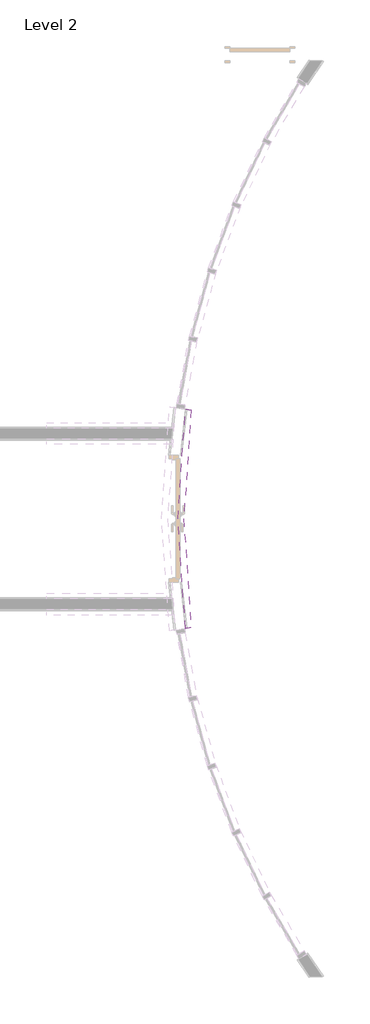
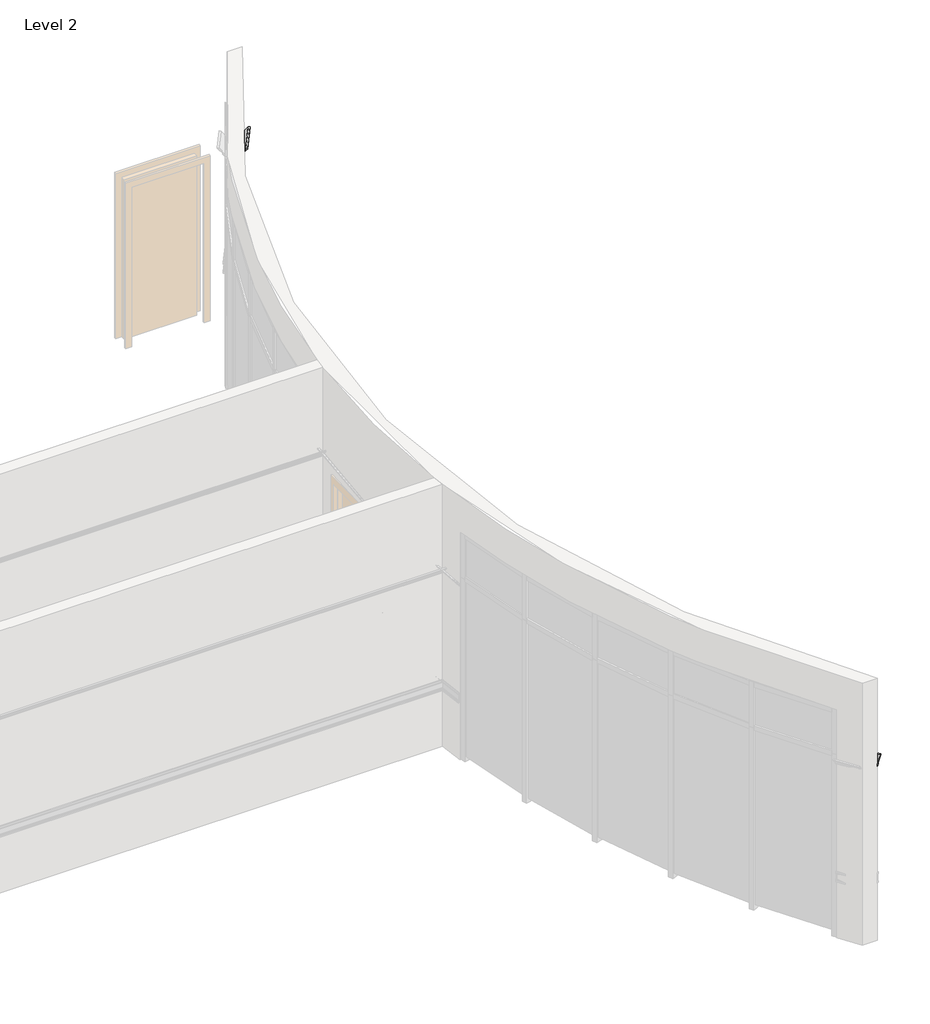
# One storey, part 12 of 14: 1 proxy.
"""IFC4 building model written with IfcOpenShell, lengths in millimetres."""

import ifcopenshell
import ifcopenshell.guid

model = None  # the IFC model being written
_history = None  # IfcOwnerHistory: only IFC2X3 demands one
_inside = {}  # id of a spatial element -> (the spatial element, [elements in it])
_under = {}  # id of a project, library or spatial element -> (it, [spatial elements below it])
_declared = {}  # id of a project -> (the project, [libraries it declares])
_typed = {}  # id of a type object -> (the type object, [elements of that type])
_made_of = {}  # id of a material, layer set ... -> (it, [elements and type objects made of it])


def new_model(schema):
    """Start an empty IFC model of exactly this schema.

    Asked for "IFC4X3", IfcOpenShell would pick the latest addendum, in which some entities
    have other attributes; the version numbers below select the first issue.
    IFC2X3 requires an IfcOwnerHistory on every rooted entity: one is made here for all.
    """
    global model, _history
    if schema == "IFC4X3":
        model = ifcopenshell.file(schema_version=(4, 3, 0, 0))
    else:
        model = ifcopenshell.file(schema=schema)
    _inside.clear()
    _under.clear()
    _declared.clear()
    _typed.clear()
    _made_of.clear()
    _history = None
    if model.schema == "IFC2X3":
        org = make("IfcOrganization", Name="unknown")
        user = make(
            "IfcPersonAndOrganization",
            ThePerson=make("IfcPerson", FamilyName="unknown"),
            TheOrganization=org,
        )
        app = make(
            "IfcApplication",
            ApplicationDeveloper=org,
            Version="unknown",
            ApplicationFullName="unknown",
            ApplicationIdentifier="unknown",
        )
        _history = make(
            "IfcOwnerHistory",
            OwningUser=user,
            OwningApplication=app,
            ChangeAction="ADDED",
            CreationDate=0,
        )
    return model


def make(cls, **values):
    """One entity of the class cls with the attributes given. An attribute that is None is left unset."""
    return model.create_entity(
        cls, **{name: value for name, value in values.items() if value is not None}
    )


def rooted(cls, **values):
    """An entity with a GlobalId (a new one), such as an element, a storey or a relation."""
    return make(cls, GlobalId=ifcopenshell.guid.new(), OwnerHistory=_history, **values)


def si_unit(unit_type, name, prefix=None):
    """IfcSIUnit, for example si_unit("LENGTHUNIT", "METRE", prefix="MILLI")."""
    return make("IfcSIUnit", UnitType=unit_type, Prefix=prefix, Name=name)


def assignment(units):
    """IfcUnitAssignment: the units of a project."""
    return None if units is None else make("IfcUnitAssignment", Units=units)


def point(xyz):
    """IfcCartesianPoint."""
    return None if xyz is None else make("IfcCartesianPoint", Coordinates=xyz)


def direction(xyz):
    """IfcDirection."""
    return None if xyz is None else make("IfcDirection", DirectionRatios=xyz)


def frame(location, z_axis=None, x_axis=None):
    """IfcAxis2Placement3D, a coordinate frame: its origin and axes. An axis left out is left unset."""
    return make(
        "IfcAxis2Placement3D",
        Location=point(location),
        Axis=direction(z_axis),
        RefDirection=direction(x_axis),
    )


def origin():
    """The frame at (0, 0, 0) with its axes left unset."""
    return frame((0.0, 0.0, 0.0))


def place(relative_to, where):
    """IfcLocalPlacement: puts the frame where relative to a parent placement (None: the world)."""
    return make(
        "IfcLocalPlacement", PlacementRelTo=relative_to, RelativePlacement=where
    )


def context(
    kind, dimensions, precision=None, world=None, true_north=None, identifier=None
):
    """IfcGeometricRepresentationContext, for example the 3D "Model" context."""
    return make(
        "IfcGeometricRepresentationContext",
        ContextIdentifier=identifier,
        ContextType=kind,
        CoordinateSpaceDimension=dimensions,
        Precision=precision,
        WorldCoordinateSystem=world,
        TrueNorth=true_north,
    )


def project(units=None, contexts=None):
    """IfcProject with its units and contexts."""
    return rooted(
        "IfcProject",
        Name="project",
        RepresentationContexts=contexts,
        UnitsInContext=assignment(units),
    )


def spatial(cls, under=None, at=None, **own):
    """A site, building, storey or space (cls), placed at a placement, below another one or the project."""
    s = rooted(cls, ObjectPlacement=at, **own)
    if under is not None:
        _under.setdefault(under.id(), (under, []))[1].append(s)
    return s


def polyline(points):
    """IfcPolyline through the points."""
    return make("IfcPolyline", Points=[point(p) for p in points])


def circle_curve(where, radius):
    """IfcCircle in the frame where."""
    return make("IfcCircle", Position=where, Radius=radius)


def ellipse_curve(where, semi_axis1, semi_axis2):
    """IfcEllipse in the frame where."""
    return make(
        "IfcEllipse", Position=where, SemiAxis1=semi_axis1, SemiAxis2=semi_axis2
    )


def trimmed(basis, trim1, trim2, sense, master):
    """IfcTrimmedCurve: the piece of a basis curve between two trims."""
    return make(
        "IfcTrimmedCurve",
        BasisCurve=basis,
        Trim1=trim1,
        Trim2=trim2,
        SenseAgreement=sense,
        MasterRepresentation=master,
    )


def shape(context_of_items, identifier, shape_type, items):
    """IfcShapeRepresentation: the items that make up one representation, for example the "Body"."""
    return make(
        "IfcShapeRepresentation",
        ContextOfItems=context_of_items,
        RepresentationIdentifier=identifier,
        RepresentationType=shape_type,
        Items=items,
    )


def made_of(thing, what):
    """Note that an element or type object is made of a material, layer set ...; save() writes the relation."""
    if what is not None:
        _made_of.setdefault(what.id(), (what, []))[1].append(thing)
    return thing


def element(
    cls,
    number,
    at=None,
    inside=None,
    cuts=None,
    type_object=None,
    material=None,
    context=None,
    identifier="Body",
    shape_type=None,
    held_by="IfcProductDefinitionShape",
    body=None,
    shapes=None,
    **own,
):
    """One element of the class cls, such as IfcWall. Its Tag is "e" and its number.

    at: its placement. inside: the storey or other place that contains it. cuts: it is an
    opening in that element (IfcRelVoidsElement). A single representation is given by context,
    identifier, shape_type and body (its items); several are given by shapes. held_by: the class
    of the entity that holds the representations. save() writes the other relations.
    """
    e = rooted(cls, Tag="e%d" % number, ObjectPlacement=at, **own)
    if body is not None:
        shapes = [shape(context, identifier, shape_type, body)]
    if shapes is not None:
        e.Representation = make(held_by, Representations=shapes)
    if inside is not None:
        _inside.setdefault(inside.id(), (inside, []))[1].append(e)
    if cuts is not None:
        rooted(
            "IfcRelVoidsElement", RelatingBuildingElement=cuts, RelatedOpeningElement=e
        )
    if type_object is not None:
        _typed.setdefault(type_object.id(), (type_object, []))[1].append(e)
    return made_of(e, material)


def aggregate(whole, parts):
    """IfcRelAggregates: a whole, such as a stair, and the parts it consists of."""
    return rooted("IfcRelAggregates", RelatingObject=whole, RelatedObjects=parts)


def save(model, path):
    """Write the relations noted so far, then the file.

    IfcRelAggregates (storeys below a building ...), IfcRelContainedInSpatialStructure (elements
    in a storey), IfcRelDefinesByType, IfcRelAssociatesMaterial and IfcRelDeclares: one each for
    every whole, place, type object, material and project.
    """
    for whole, parts in _under.values():
        aggregate(whole, parts)
    for where, things in _inside.values():
        rooted(
            "IfcRelContainedInSpatialStructure",
            RelatedElements=things,
            RelatingStructure=where,
        )
    for kind, things in _typed.values():
        rooted("IfcRelDefinesByType", RelatedObjects=things, RelatingType=kind)
    for what, things in _made_of.values():
        rooted("IfcRelAssociatesMaterial", RelatedObjects=things, RelatingMaterial=what)
    for by, libraries in _declared.values():
        rooted("IfcRelDeclares", RelatingContext=by, RelatedDefinitions=libraries)
    model.write(path)


def plane_surface(at):
    """IfcPlane: the flat surface through the origin of the frame at, square to its z axis."""
    return make("IfcPlane", Position=at)


def cylinder_surface(at, radius):
    """IfcCylindricalSurface: all points at the distance radius from the z axis of the frame at."""
    return make("IfcCylindricalSurface", Position=at, Radius=radius)


def revolved_surface(curve, axis_point, axis_direction):
    """IfcSurfaceOfRevolution: the curve turned about the line through axis_point along axis_direction."""
    return make(
        "IfcSurfaceOfRevolution",
        SweptCurve=make("IfcArbitraryOpenProfileDef", ProfileType="CURVE", Curve=curve),
        AxisPosition=make("IfcAxis1Placement", Location=point(axis_point), Axis=direction(axis_direction)),
    )


def advanced_brep(points, edges, surfaces, faces):
    """IfcAdvancedBrep: a solid bounded by faces that lie on surfaces and meet in shared edges.

    An edge is (start, end): straight between two places in points (the first is 0);
    or (start, end, curve); or (start, end, curve, False) where it runs against its curve.
    A face is (place in surfaces, loops), or (place, loops, False) where it looks against
    its surface's normal. A loop lists edges by number (the first is 1), with a minus sign
    where the edge is run from its end to its start. The first loop is the outer one.
    """
    corners = [point(p) for p in points]
    vertices = [make("IfcVertexPoint", VertexGeometry=c) for c in corners]
    made = []
    for start, end, *more in edges:
        made.append(
            make(
                "IfcEdgeCurve",
                EdgeStart=vertices[start],
                EdgeEnd=vertices[end],
                EdgeGeometry=more[0] if more else make("IfcPolyline", Points=[corners[start], corners[end]]),
                SameSense=more[1] if len(more) > 1 else True,
            )
        )
    hull = []
    for where, loops, *sense in faces:
        bounds = []
        for j, loop in enumerate(loops):
            ring = [make("IfcOrientedEdge", EdgeElement=made[abs(k) - 1], Orientation=k > 0) for k in loop]
            bounds.append(
                make(
                    "IfcFaceOuterBound" if j == 0 else "IfcFaceBound",
                    Bound=make("IfcEdgeLoop", EdgeList=ring),
                    Orientation=True,
                )
            )
        hull.append(make("IfcAdvancedFace", Bounds=bounds, FaceSurface=surfaces[where], SameSense=sense[0] if sense else True))
    return make("IfcAdvancedBrep", Outer=make("IfcClosedShell", CfsFaces=hull))


model = new_model("IFC4")

# Units and contexts
model_context = context("Model", 3, world=origin())
ifc_project = project(units=[si_unit("LENGTHUNIT", "METRE", prefix="MILLI")], contexts=[model_context])

# Site, building, storey
site = spatial("IfcSite", under=ifc_project)
building = spatial("IfcBuilding", under=site)
storey = spatial("IfcBuildingStorey", under=building, Name="Level 2", Elevation=3657.6)

# Proxy
placement = place(None, origin())
element("IfcBuildingElementProxy", 1, Name="Wall Sweeps", at=placement, inside=storey, context=model_context, shape_type="AdvancedBrep", body=[
    advanced_brep(
    [(12953.9587351, 4417.7700723, 6095.999973), (12970.903584, 4405.8685929, 6095.999973), (12970.903584, 4405.8685929, 6088.8481102), (12968.8452115, 4407.314323, 6088.8481102), (12966.0224244, 4409.2969516, 6085.3986257), (12958.8230837, 4414.353521, 6079.2202934), (12956.5575087, 4415.944783, 6079.2202934), (12956.5575087, 4415.944783, 6073.7698146), (12945.4863106, 4423.7208119, 6054.4442936), (12939.5598391, 4427.8833618, 6049.7194168), (12918.6957015, 4442.5376147, 6011.0554653), (12916.0546715, 4444.3925835, 6011.0554653), (12916.0546715, 4444.3925835, 6006.0207604), (12913.117846, 4446.4553087, 6006.0207604), (12907.2864516, 4450.5510796, 5995.6157037), (12907.2864516, 4450.5510796, 5991.3297498), (12904.0327026, 4452.8364011, 5984.875), (12898.1548084, 4456.9648319, 5984.875), (12898.1548084, 4456.9648319, 6009.4919306), (12720.2342373, 4072.4457045, 6095.999973), (12663.1071836, 4109.6855643, 6009.4919306), (12663.1071836, 4109.6855643, 5984.875), (12669.1244444, 4105.7630455, 5984.875), (12672.4553407, 4103.591708, 5991.3297498), (12672.4553407, 4103.591708, 5995.6157037), (12678.4249991, 4099.70022, 6006.0207604), (12681.4314575, 4097.7403764, 6006.0207604), (12681.4314575, 4097.7403764, 6011.0554653), (12684.1351072, 4095.9779271, 6011.0554653), (12705.4939394, 4082.0545779, 6049.7194168), (12711.5609292, 4078.0996417, 6054.4442936), (12722.8946285, 4070.7114544, 6073.7698146), (12722.8946285, 4070.7114544, 6079.2202934), (12725.213921, 4069.199559, 6079.2202934), (12732.5839601, 4064.3951939, 6085.3986257), (12735.4736763, 4062.511452, 6088.8481102), (12737.5808534, 4061.13783, 6088.8481102), (12737.5808534, 4061.13783, 6095.999973)],
    [
        (0, 1),
        (1, 2),
        (2, 3),
        (3, 4, circle_curve(frame((12971.9830654, 4405.1104023, 6081.5641253), z_axis=(-0.5747608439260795, -0.81832143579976, 0.0), x_axis=(0.81832143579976, -0.5747608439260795, 0.0)), 8.2316359)),
        (4, 5, circle_curve(frame((12959.5942099, 4413.8119085, 6087.2314026), z_axis=(0.5747608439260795, 0.81832143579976, 0.0), x_axis=(0.81832143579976, -0.5747608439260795, 0.0)), 8.0663405)),
        (5, 6),
        (6, 7),
        (7, 8, circle_curve(frame((12938.6875396, 4428.496035, 6074.6589994), z_axis=(0.5747608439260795, 0.81832143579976, 0.0), x_axis=(0.81832143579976, -0.5747608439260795, 0.0)), 21.8554426)),
        (8, 9),
        (9, 10, circle_curve(frame((12957.1145853, 4415.5535116, 6007.8346746), z_axis=(-0.5747608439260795, -0.81832143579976, 0.0), x_axis=(0.81832143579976, -0.5747608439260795, 0.0)), 47.0587499)),
        (10, 11),
        (11, 12),
        (12, 13),
        (13, 14, circle_curve(frame((12904.5356456, 4452.4831512, 6005.5606001), z_axis=(0.5747608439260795, 0.81832143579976, 0.0), x_axis=(0.81832143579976, -0.5747608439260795, 0.0)), 10.4976568)),
        (14, 15),
        (15, 16, circle_curve(frame((12909.9683311, 4448.6674197, 5984.8589154), z_axis=(-0.5747608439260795, -0.81832143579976, 0.0), x_axis=(0.81832143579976, -0.5747608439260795, 0.0)), 7.2534372)),
        (16, 17),
        (17, 18),
        (18, 0),
        (19, 20),
        (20, 21),
        (21, 22),
        (22, 23, circle_curve(frame((12675.2008084, 4101.8019985, 5984.8589154), z_axis=(0.5460937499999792, 0.8377240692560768, 0.0), x_axis=(0.8377240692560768, -0.5460937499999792, 0.0)), 7.2534372)),
        (23, 24),
        (24, 25, circle_curve(frame((12669.6393123, 4105.4274145, 6005.5606001), z_axis=(-0.5460937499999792, -0.8377240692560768, 0.0), x_axis=(0.8377240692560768, -0.5460937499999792, 0.0)), 10.4976568)),
        (25, 26),
        (26, 27),
        (27, 28),
        (28, 29, circle_curve(frame((12723.4649136, 4070.3396982, 6007.8346746), z_axis=(0.5460937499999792, 0.8377240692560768, 0.0), x_axis=(0.8377240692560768, -0.5460937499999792, 0.0)), 47.0587499)),
        (29, 30),
        (30, 31, circle_curve(frame((12704.6009574, 4082.6366931, 6074.6589994), z_axis=(-0.5460937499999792, -0.8377240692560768, 0.0), x_axis=(0.8377240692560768, -0.5460937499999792, 0.0)), 21.8554426)),
        (31, 32),
        (32, 33),
        (33, 34, circle_curve(frame((12726.0033308, 4068.6849603, 6087.2314026), z_axis=(-0.5460937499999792, -0.8377240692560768, 0.0), x_axis=(0.8377240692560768, -0.5460937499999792, 0.0)), 8.0663405)),
        (34, 35, circle_curve(frame((12738.6859296, 4060.4174553, 6081.5641253), z_axis=(0.5460937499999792, 0.8377240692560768, 0.0), x_axis=(0.8377240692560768, -0.5460937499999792, 0.0)), 8.2316359)),
        (35, 36),
        (36, 37),
        (37, 19),
        (37, 1, circle_curve(frame((22811.474575, -2505.8101681, 6095.999973), z_axis=(0.0, 0.0, -1.0), x_axis=(-0.8183214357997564, 0.5747608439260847, 0.0)), 12025.3125)),
        (0, 19, circle_curve(frame((22811.474575, -2505.8101681, 6095.999973), z_axis=(0.0, 0.0, 1.0), x_axis=(-0.8183214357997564, 0.5747608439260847, 0.0)), 12046.0193374)),
        (36, 2, circle_curve(frame((22811.474575, -2505.8101681, 6088.8481102), z_axis=(0.0, 0.0, -1.0), x_axis=(-0.8183214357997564, 0.5747608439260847, 0.0)), 12025.3125)),
        (35, 3, circle_curve(frame((22811.474575, -2505.8101681, 6088.8481102), z_axis=(0.0, 0.0, -1.0), x_axis=(-0.8183214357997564, 0.5747608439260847, 0.0)), 12027.8278594)),
        (34, 4, circle_curve(frame((22811.474575, -2505.8101681, 6085.3986257), z_axis=(0.0, 0.0, -1.0), x_axis=(-0.8183214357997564, 0.5747608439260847, 0.0)), 12031.2773439)),
        (33, 5, circle_curve(frame((22811.474575, -2505.8101681, 6079.2202934), z_axis=(0.0, 0.0, -1.0), x_axis=(-0.8183214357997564, 0.5747608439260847, 0.0)), 12040.0750367)),
        (32, 6, circle_curve(frame((22811.474575, -2505.8101681, 6079.2202934), z_axis=(0.0, 0.0, -1.0), x_axis=(-0.8183214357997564, 0.5747608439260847, 0.0)), 12042.8436005)),
        (31, 7, circle_curve(frame((22811.474575, -2505.8101681, 6073.7698146), z_axis=(0.0, 0.0, -1.0), x_axis=(-0.8183214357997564, 0.5747608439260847, 0.0)), 12042.8436005)),
        (30, 8, circle_curve(frame((22811.474575, -2505.8101681, 6054.4442936), z_axis=(0.0, 0.0, -1.0), x_axis=(-0.8183214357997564, 0.5747608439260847, 0.0)), 12056.3727562)),
        (29, 9, circle_curve(frame((22811.474575, -2505.8101681, 6049.7194168), z_axis=(0.0, 0.0, -1.0), x_axis=(-0.8183214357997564, 0.5747608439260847, 0.0)), 12063.6149855)),
        (28, 10, circle_curve(frame((22811.474575, -2505.8101681, 6011.0554653), z_axis=(0.0, 0.0, -1.0), x_axis=(-0.8183214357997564, 0.5747608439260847, 0.0)), 12089.1112473)),
        (27, 11, circle_curve(frame((22811.474575, -2505.8101681, 6011.0554653), z_axis=(0.0, 0.0, -1.0), x_axis=(-0.8183214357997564, 0.5747608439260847, 0.0)), 12092.3386222)),
        (26, 12, circle_curve(frame((22811.474575, -2505.8101681, 6006.0207604), z_axis=(0.0, 0.0, -1.0), x_axis=(-0.8183214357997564, 0.5747608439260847, 0.0)), 12092.3386222)),
        (25, 13, circle_curve(frame((22811.474575, -2505.8101681, 6006.0207604), z_axis=(0.0, 0.0, -1.0), x_axis=(-0.8183214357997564, 0.5747608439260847, 0.0)), 12095.9274631)),
        (24, 14, circle_curve(frame((22811.474575, -2505.8101681, 5995.6157037), z_axis=(0.0, 0.0, -1.0), x_axis=(-0.8183214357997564, 0.5747608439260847, 0.0)), 12103.0535069)),
        (23, 15, circle_curve(frame((22811.474575, -2505.8101681, 5991.3297498), z_axis=(0.0, 0.0, -1.0), x_axis=(-0.8183214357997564, 0.5747608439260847, 0.0)), 12103.0535069)),
        (22, 16, circle_curve(frame((22811.474575, -2505.8101681, 5984.875), z_axis=(0.0, 0.0, -1.0), x_axis=(-0.8183214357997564, 0.5747608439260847, 0.0)), 12107.0296328)),
        (21, 17, circle_curve(frame((22811.474575, -2505.8101681, 5984.875), z_axis=(0.0, 0.0, -1.0), x_axis=(-0.8183214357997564, 0.5747608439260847, 0.0)), 12114.2125)),
        (20, 18, circle_curve(frame((22811.474575, -2505.8101681, 6009.4919306), z_axis=(0.0, 0.0, -1.0), x_axis=(-0.8183214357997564, 0.5747608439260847, 0.0)), 12114.2125)),
    ],
    [
        plane_surface(frame((22811.474575, -2505.8101681, 5984.875), z_axis=(0.5747608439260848, 0.8183214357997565, 0.0), x_axis=(-0.8183214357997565, 0.5747608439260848, 0.0))),
        plane_surface(frame((22811.474575, -2505.8101681, 5984.875), z_axis=(-0.5460937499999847, -0.8377240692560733, 0.0), x_axis=(-0.8377240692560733, 0.5460937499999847, 0.0))),
        plane_surface(frame((22811.474575, -2505.8101681, 6095.999973), z_axis=(0.0, 0.0, 1.0000000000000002), x_axis=(-0.8183214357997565, 0.5747608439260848, 0.0))),
        revolved_surface(polyline([(12970.903584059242, 4405.8685928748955, 6095.999973), (12970.903584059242, 4405.8685928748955, 6088.8481102)]), (22811.474575, -2505.8101681, 5984.875), (0.0, 0.0, 1.0)),
        plane_surface(frame((22811.474575, -2505.8101681, 6088.8481102), z_axis=(0.0, 0.0, -1.0000000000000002), x_axis=(-0.8183214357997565, 0.5747608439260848, 0.0))),
        revolved_surface(trimmed(ellipse_curve(frame((12971.9830654, 4405.1104023, 6081.5641253), z_axis=(-0.5747608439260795, -0.81832143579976, 0.0), x_axis=(0.81832143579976, -0.5747608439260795, 0.0)), 8.2316359, 8.2316359), [point((12968.8452115, 4407.314323, 6088.8481102))], [point((12966.0224244, 4409.2969516, 6085.3986257))], True, "CARTESIAN"), (22811.474575, -2505.8101681, 5984.875), (0.0, 0.0, 1.0)),
        revolved_surface(trimmed(ellipse_curve(frame((12959.5942099, 4413.8119085, 6087.2314026), z_axis=(0.5747608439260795, 0.81832143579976, 0.0), x_axis=(0.81832143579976, -0.5747608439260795, 0.0)), 8.0663405, 8.0663405), [point((12966.0224244, 4409.2969516, 6085.3986257))], [point((12958.8230837, 4414.353521, 6079.2202934))], True, "CARTESIAN"), (22811.474575, -2505.8101681, 5984.875), (0.0, 0.0, 1.0)),
        plane_surface(frame((22811.474575, -2505.8101681, 6079.2202934), z_axis=(0.0, 0.0, -1.0000000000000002), x_axis=(-0.8183214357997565, 0.5747608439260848, 0.0))),
        revolved_surface(polyline([(12956.557508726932, 4415.944782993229, 6079.2202934), (12956.557508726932, 4415.944782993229, 6073.7698146)]), (22811.474575, -2505.8101681, 5984.875), (0.0, 0.0, 1.0)),
        revolved_surface(trimmed(ellipse_curve(frame((12938.6875396, 4428.496035, 6074.6589994), z_axis=(0.5747608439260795, 0.81832143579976, 0.0), x_axis=(0.81832143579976, -0.5747608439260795, 0.0)), 21.8554426, 21.8554426), [point((12956.5575087, 4415.944783, 6073.7698146))], [point((12945.4863106, 4423.7208119, 6054.4442936))], True, "CARTESIAN"), (22811.474575, -2505.8101681, 5984.875), (0.0, 0.0, 1.0)),
        revolved_surface(polyline([(12945.4863106, 4423.7208119, 6054.4442936), (12939.5598391, 4427.8833618, 6049.7194168)]), (22811.474575, -2505.8101681, 5984.875), (0.0, 0.0, 1.0)),
        revolved_surface(trimmed(ellipse_curve(frame((12957.1145853, 4415.5535116, 6007.8346746), z_axis=(-0.5747608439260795, -0.81832143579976, 0.0), x_axis=(0.81832143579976, -0.5747608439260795, 0.0)), 47.0587499, 47.0587499), [point((12939.5598391, 4427.8833618, 6049.7194168))], [point((12918.6957015, 4442.5376147, 6011.0554653))], True, "CARTESIAN"), (22811.474575, -2505.8101681, 5984.875), (0.0, 0.0, 1.0)),
        plane_surface(frame((22811.474575, -2505.8101681, 6011.0554653), z_axis=(0.0, 0.0, -1.0000000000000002), x_axis=(-0.8183214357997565, 0.5747608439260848, 0.0))),
        revolved_surface(polyline([(12916.054671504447, 4444.392583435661, 6011.0554653), (12916.054671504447, 4444.392583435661, 6006.0207604)]), (22811.474575, -2505.8101681, 5984.875), (0.0, 0.0, 1.0)),
        plane_surface(frame((22811.474575, -2505.8101681, 6006.0207604), z_axis=(0.0, 0.0, -1.0000000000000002), x_axis=(-0.8183214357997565, 0.5747608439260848, 0.0))),
        revolved_surface(trimmed(ellipse_curve(frame((12904.5356456, 4452.4831512, 6005.5606001), z_axis=(0.5747608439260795, 0.81832143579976, 0.0), x_axis=(0.81832143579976, -0.5747608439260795, 0.0)), 10.4976568, 10.4976568), [point((12913.117846, 4446.4553087, 6006.0207604))], [point((12907.2864516, 4450.5510796, 5995.6157037))], True, "CARTESIAN"), (22811.474575, -2505.8101681, 5984.875), (0.0, 0.0, 1.0)),
        revolved_surface(polyline([(12907.286451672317, 4450.551079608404, 5995.6157037), (12907.286451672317, 4450.551079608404, 5991.3297498)]), (22811.474575, -2505.8101681, 5984.875), (0.0, 0.0, 1.0)),
        revolved_surface(trimmed(ellipse_curve(frame((12909.9683311, 4448.6674197, 5984.8589154), z_axis=(-0.5747608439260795, -0.81832143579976, 0.0), x_axis=(0.81832143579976, -0.5747608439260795, 0.0)), 7.2534372, 7.2534372), [point((12907.2864516, 4450.5510796, 5991.3297498))], [point((12904.0327026, 4452.8364011, 5984.875))], True, "CARTESIAN"), (22811.474575, -2505.8101681, 5984.875), (0.0, 0.0, 1.0)),
        plane_surface(frame((22811.474575, -2505.8101681, 5984.875), z_axis=(0.0, 0.0, -1.0000000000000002), x_axis=(-0.8183214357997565, 0.5747608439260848, 0.0))),
        cylinder_surface(frame((22811.474575, -2505.8101681, 5984.875), z_axis=(0.0, 0.0, 1.0), x_axis=(-0.8183214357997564, 0.5747608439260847, 0.0)), 12114.2125),
        revolved_surface(polyline([(12898.1548084, 4456.9648319, 6009.4919306), (12953.9587351, 4417.7700723, 6095.999973)]), (22811.474575, -2505.8101681, 5984.875), (0.0, 0.0, 1.0)),
    ],
    [
        (0, [[1, 2, 3, 4, 5, 6, 7, 8, 9, 10, 11, 12, 13, 14, 15, 16, 17, 18, 19]]),
        (1, [[20, 21, 22, 23, 24, 25, 26, 27, 28, 29, 30, 31, 32, 33, 34, 35, 36, 37, 38]]),
        (2, [[39, -1, 40, -38]]),
        (3, [[41, -2, -39, -37]]),
        (4, [[42, -3, -41, -36]]),
        (5, [[43, -4, -42, -35]]),
        (6, [[44, -5, -43, -34]]),
        (7, [[45, -6, -44, -33]]),
        (8, [[46, -7, -45, -32]]),
        (9, [[47, -8, -46, -31]]),
        (10, [[48, -9, -47, -30]]),
        (11, [[49, -10, -48, -29]]),
        (12, [[50, -11, -49, -28]]),
        (13, [[51, -12, -50, -27]]),
        (14, [[52, -13, -51, -26]]),
        (15, [[53, -14, -52, -25]]),
        (16, [[54, -15, -53, -24]]),
        (17, [[55, -16, -54, -23]]),
        (18, [[56, -17, -55, -22]]),
        (19, [[57, -18, -56, -21]]),
        (20, [[-40, -19, -57, -20]]),
    ],
),
    advanced_brep(
    [(10880.3070304, -846.345525, 6095.999973), (10900.8164402, -849.1981075, 6095.999973), (10900.8164402, -849.1981075, 6088.8481102), (10898.3250633, -848.8515906, 6088.8481102), (10894.9084676, -848.3763882, 6085.3986257), (10886.1946556, -847.1644143, 6079.2202934), (10883.4524885, -846.7830158, 6079.2202934), (10883.4524885, -846.7830158, 6073.7698146), (10870.0523255, -844.9192337, 6054.4442936), (10862.8791466, -843.9215412, 6049.7194168), (10837.6259769, -840.4091655, 6011.0554653), (10834.4293731, -839.964561, 6011.0554653), (10834.4293731, -839.964561, 6006.0207604), (10830.8747497, -839.4701608, 6006.0207604), (10823.8166486, -838.488474, 5995.6157037), (10823.8166486, -838.488474, 5991.3297498), (10819.8784327, -837.9407213, 5984.875), (10812.76405, -836.9512065, 5984.875), (10812.76405, -836.9512065, 6009.4919306), (10880.3070304, -4165.2748112, 6095.999973), (10812.76405, -4174.6691297, 6009.4919306), (10812.76405, -4174.6691297, 5984.875), (10819.8784327, -4173.6796149, 5984.875), (10823.8166486, -4173.1318621, 5991.3297498), (10823.8166486, -4173.1318621, 5995.6157037), (10830.8747497, -4172.1501754, 6006.0207604), (10834.4293731, -4171.6557751, 6006.0207604), (10834.4293731, -4171.6557751, 6011.0554653), (10837.6259769, -4171.2111706, 6011.0554653), (10862.8791466, -4167.698795, 6049.7194168), (10870.0523255, -4166.7011025, 6054.4442936), (10883.4524885, -4164.8373203, 6073.7698146), (10883.4524885, -4164.8373203, 6079.2202934), (10886.1946556, -4164.4559218, 6079.2202934), (10894.9084676, -4163.243948, 6085.3986257), (10898.3250633, -4162.7687456, 6088.8481102), (10900.8164402, -4162.4222286, 6088.8481102), (10900.8164402, -4162.4222286, 6095.999973)],
    [
        (0, 1),
        (1, 2),
        (2, 3),
        (3, 4, circle_curve(frame((10902.123004, -849.3798329, 6081.5641253), z_axis=(-0.1377604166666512, -0.9904655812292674, 0.0), x_axis=(0.9904655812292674, -0.1377604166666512, 0.0)), 8.2316359)),
        (4, 5, circle_curve(frame((10887.1279978, -847.2942296, 6087.2314026), z_axis=(0.1377604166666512, 0.9904655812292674, 0.0), x_axis=(0.9904655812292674, -0.1377604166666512, 0.0)), 8.0663405)),
        (5, 6),
        (6, 7),
        (7, 8, circle_curve(frame((10861.823348, -843.7746938, 6074.6589994), z_axis=(0.1377604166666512, 0.9904655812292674, 0.0), x_axis=(0.9904655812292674, -0.1377604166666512, 0.0)), 21.8554426)),
        (8, 9),
        (9, 10, circle_curve(frame((10884.1267531, -846.8767969, 6007.8346746), z_axis=(-0.1377604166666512, -0.9904655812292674, 0.0), x_axis=(0.9904655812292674, -0.1377604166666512, 0.0)), 47.0587499)),
        (10, 11),
        (11, 12),
        (12, 13),
        (13, 14, circle_curve(frame((10820.4871761, -838.0253893, 6005.5606001), z_axis=(0.1377604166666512, 0.9904655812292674, 0.0), x_axis=(0.9904655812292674, -0.1377604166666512, 0.0)), 10.4976568)),
        (14, 15),
        (15, 16, circle_curve(frame((10827.062695, -838.9399553, 5984.8589154), z_axis=(-0.1377604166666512, -0.9904655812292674, 0.0), x_axis=(0.9904655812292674, -0.1377604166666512, 0.0)), 7.2534372)),
        (16, 17),
        (17, 18),
        (18, 0),
        (19, 20),
        (20, 21),
        (21, 22),
        (22, 23, circle_curve(frame((10827.062695, -4172.6803808, 5984.8589154), z_axis=(-0.1377604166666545, 0.9904655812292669, 0.0), x_axis=(0.9904655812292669, 0.1377604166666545, 0.0)), 7.2534372)),
        (23, 24),
        (24, 25, circle_curve(frame((10820.4871761, -4173.5949469, 6005.5606001), z_axis=(0.1377604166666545, -0.9904655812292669, 0.0), x_axis=(0.9904655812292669, 0.1377604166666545, 0.0)), 10.4976568)),
        (25, 26),
        (26, 27),
        (27, 28),
        (28, 29, circle_curve(frame((10884.1267531, -4164.7435392, 6007.8346746), z_axis=(-0.1377604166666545, 0.9904655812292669, 0.0), x_axis=(0.9904655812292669, 0.1377604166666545, 0.0)), 47.0587499)),
        (29, 30),
        (30, 31, circle_curve(frame((10861.823348, -4167.8456423, 6074.6589994), z_axis=(0.1377604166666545, -0.9904655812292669, 0.0), x_axis=(0.9904655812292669, 0.1377604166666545, 0.0)), 21.8554426)),
        (31, 32),
        (32, 33),
        (33, 34, circle_curve(frame((10887.1279978, -4164.3261065, 6087.2314026), z_axis=(0.1377604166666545, -0.9904655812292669, 0.0), x_axis=(0.9904655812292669, 0.1377604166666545, 0.0)), 8.0663405)),
        (34, 35, circle_curve(frame((10902.123004, -4162.2405032, 6081.5641253), z_axis=(-0.1377604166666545, 0.9904655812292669, 0.0), x_axis=(0.9904655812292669, 0.1377604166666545, 0.0)), 8.2316359)),
        (35, 36),
        (36, 37),
        (37, 19),
        (37, 1, circle_curve(frame((22811.474575, -2505.8101681, 6095.999973), z_axis=(0.0, 0.0, -1.0), x_axis=(-0.9904655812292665, 0.13776041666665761, 0.0)), 12025.3125)),
        (0, 19, circle_curve(frame((22811.474575, -2505.8101681, 6095.999973), z_axis=(0.0, 0.0, 1.0), x_axis=(-0.9904655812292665, 0.13776041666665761, 0.0)), 12046.0193374)),
        (36, 2, circle_curve(frame((22811.474575, -2505.8101681, 6088.8481102), z_axis=(0.0, 0.0, -1.0), x_axis=(-0.9904655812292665, 0.13776041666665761, 0.0)), 12025.3125)),
        (35, 3, circle_curve(frame((22811.474575, -2505.8101681, 6088.8481102), z_axis=(0.0, 0.0, -1.0), x_axis=(-0.9904655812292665, 0.13776041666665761, 0.0)), 12027.8278594)),
        (34, 4, circle_curve(frame((22811.474575, -2505.8101681, 6085.3986257), z_axis=(0.0, 0.0, -1.0), x_axis=(-0.9904655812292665, 0.13776041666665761, 0.0)), 12031.2773439)),
        (33, 5, circle_curve(frame((22811.474575, -2505.8101681, 6079.2202934), z_axis=(0.0, 0.0, -1.0), x_axis=(-0.9904655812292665, 0.13776041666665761, 0.0)), 12040.0750367)),
        (32, 6, circle_curve(frame((22811.474575, -2505.8101681, 6079.2202934), z_axis=(0.0, 0.0, -1.0), x_axis=(-0.9904655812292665, 0.13776041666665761, 0.0)), 12042.8436005)),
        (31, 7, circle_curve(frame((22811.474575, -2505.8101681, 6073.7698146), z_axis=(0.0, 0.0, -1.0), x_axis=(-0.9904655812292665, 0.13776041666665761, 0.0)), 12042.8436005)),
        (30, 8, circle_curve(frame((22811.474575, -2505.8101681, 6054.4442936), z_axis=(0.0, 0.0, -1.0), x_axis=(-0.9904655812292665, 0.13776041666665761, 0.0)), 12056.3727562)),
        (29, 9, circle_curve(frame((22811.474575, -2505.8101681, 6049.7194168), z_axis=(0.0, 0.0, -1.0), x_axis=(-0.9904655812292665, 0.13776041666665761, 0.0)), 12063.6149855)),
        (28, 10, circle_curve(frame((22811.474575, -2505.8101681, 6011.0554653), z_axis=(0.0, 0.0, -1.0), x_axis=(-0.9904655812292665, 0.13776041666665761, 0.0)), 12089.1112473)),
        (27, 11, circle_curve(frame((22811.474575, -2505.8101681, 6011.0554653), z_axis=(0.0, 0.0, -1.0), x_axis=(-0.9904655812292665, 0.13776041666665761, 0.0)), 12092.3386222)),
        (26, 12, circle_curve(frame((22811.474575, -2505.8101681, 6006.0207604), z_axis=(0.0, 0.0, -1.0), x_axis=(-0.9904655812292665, 0.13776041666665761, 0.0)), 12092.3386222)),
        (25, 13, circle_curve(frame((22811.474575, -2505.8101681, 6006.0207604), z_axis=(0.0, 0.0, -1.0), x_axis=(-0.9904655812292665, 0.13776041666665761, 0.0)), 12095.9274631)),
        (24, 14, circle_curve(frame((22811.474575, -2505.8101681, 5995.6157037), z_axis=(0.0, 0.0, -1.0), x_axis=(-0.9904655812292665, 0.13776041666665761, 0.0)), 12103.0535069)),
        (23, 15, circle_curve(frame((22811.474575, -2505.8101681, 5991.3297498), z_axis=(0.0, 0.0, -1.0), x_axis=(-0.9904655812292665, 0.13776041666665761, 0.0)), 12103.0535069)),
        (22, 16, circle_curve(frame((22811.474575, -2505.8101681, 5984.875), z_axis=(0.0, 0.0, -1.0), x_axis=(-0.9904655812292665, 0.13776041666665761, 0.0)), 12107.0296328)),
        (21, 17, circle_curve(frame((22811.474575, -2505.8101681, 5984.875), z_axis=(0.0, 0.0, -1.0), x_axis=(-0.9904655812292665, 0.13776041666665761, 0.0)), 12114.2125)),
        (20, 18, circle_curve(frame((22811.474575, -2505.8101681, 6009.4919306), z_axis=(0.0, 0.0, -1.0), x_axis=(-0.9904655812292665, 0.13776041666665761, 0.0)), 12114.2125)),
    ],
    [
        plane_surface(frame((22811.474575, -2505.8101681, 5984.875), z_axis=(0.13776041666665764, 0.9904655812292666, 0.0), x_axis=(-0.9904655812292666, 0.13776041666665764, 0.0))),
        plane_surface(frame((22811.474575, -2505.8101681, 5984.875), z_axis=(0.13776041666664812, -0.990465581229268, 0.0), x_axis=(-0.990465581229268, -0.13776041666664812, 0.0))),
        plane_surface(frame((22811.474575, -2505.8101681, 6095.999973), z_axis=(0.0, 0.0, 1.0000000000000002), x_axis=(-0.9904655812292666, 0.13776041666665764, 0.0))),
        revolved_surface(polyline([(10900.816440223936, -849.1981075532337, 6095.999973), (10900.816440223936, -849.1981075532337, 6088.8481102)]), (22811.474575, -2505.8101681, 5984.875), (0.0, 0.0, 1.0)),
        plane_surface(frame((22811.474575, -2505.8101681, 6088.8481102), z_axis=(0.0, 0.0, -1.0000000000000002), x_axis=(-0.9904655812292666, 0.13776041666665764, 0.0))),
        revolved_surface(trimmed(ellipse_curve(frame((10902.123004, -849.3798329, 6081.5641253), z_axis=(-0.1377604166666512, -0.9904655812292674, 0.0), x_axis=(0.9904655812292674, -0.1377604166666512, 0.0)), 8.2316359, 8.2316359), [point((10898.3250633, -848.8515906, 6088.8481102))], [point((10894.9084676, -848.3763882, 6085.3986257))], True, "CARTESIAN"), (22811.474575, -2505.8101681, 5984.875), (0.0, 0.0, 1.0)),
        revolved_surface(trimmed(ellipse_curve(frame((10887.1279978, -847.2942296, 6087.2314026), z_axis=(0.1377604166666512, 0.9904655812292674, 0.0), x_axis=(0.9904655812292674, -0.1377604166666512, 0.0)), 8.0663405, 8.0663405), [point((10894.9084676, -848.3763882, 6085.3986257))], [point((10886.1946556, -847.1644143, 6079.2202934))], True, "CARTESIAN"), (22811.474575, -2505.8101681, 5984.875), (0.0, 0.0, 1.0)),
        plane_surface(frame((22811.474575, -2505.8101681, 6079.2202934), z_axis=(0.0, 0.0, -1.0000000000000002), x_axis=(-0.9904655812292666, 0.13776041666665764, 0.0))),
        revolved_surface(polyline([(10883.452488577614, -846.7830158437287, 6079.2202934), (10883.452488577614, -846.7830158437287, 6073.7698146)]), (22811.474575, -2505.8101681, 5984.875), (0.0, 0.0, 1.0)),
        revolved_surface(trimmed(ellipse_curve(frame((10861.823348, -843.7746938, 6074.6589994), z_axis=(0.1377604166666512, 0.9904655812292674, 0.0), x_axis=(0.9904655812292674, -0.1377604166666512, 0.0)), 21.8554426, 21.8554426), [point((10883.4524885, -846.7830158, 6073.7698146))], [point((10870.0523255, -844.9192337, 6054.4442936))], True, "CARTESIAN"), (22811.474575, -2505.8101681, 5984.875), (0.0, 0.0, 1.0)),
        revolved_surface(polyline([(10870.0523255, -844.9192337, 6054.4442936), (10862.8791466, -843.9215412, 6049.7194168)]), (22811.474575, -2505.8101681, 5984.875), (0.0, 0.0, 1.0)),
        revolved_surface(trimmed(ellipse_curve(frame((10884.1267531, -846.8767969, 6007.8346746), z_axis=(-0.1377604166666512, -0.9904655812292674, 0.0), x_axis=(0.9904655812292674, -0.1377604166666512, 0.0)), 47.0587499, 47.0587499), [point((10862.8791466, -843.9215412, 6049.7194168))], [point((10837.6259769, -840.4091655, 6011.0554653))], True, "CARTESIAN"), (22811.474575, -2505.8101681, 5984.875), (0.0, 0.0, 1.0)),
        plane_surface(frame((22811.474575, -2505.8101681, 6011.0554653), z_axis=(0.0, 0.0, -1.0000000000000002), x_axis=(-0.9904655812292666, 0.13776041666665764, 0.0))),
        revolved_surface(polyline([(10834.42937314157, -839.9645610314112, 6011.0554653), (10834.42937314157, -839.9645610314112, 6006.0207604)]), (22811.474575, -2505.8101681, 5984.875), (0.0, 0.0, 1.0)),
        plane_surface(frame((22811.474575, -2505.8101681, 6006.0207604), z_axis=(0.0, 0.0, -1.0000000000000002), x_axis=(-0.9904655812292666, 0.13776041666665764, 0.0))),
        revolved_surface(trimmed(ellipse_curve(frame((10820.4871761, -838.0253893, 6005.5606001), z_axis=(0.1377604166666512, 0.9904655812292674, 0.0), x_axis=(0.9904655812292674, -0.1377604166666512, 0.0)), 10.4976568, 10.4976568), [point((10830.8747497, -839.4701608, 6006.0207604))], [point((10823.8166486, -838.488474, 5995.6157037))], True, "CARTESIAN"), (22811.474575, -2505.8101681, 5984.875), (0.0, 0.0, 1.0)),
        revolved_surface(polyline([(10823.816648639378, -838.4884740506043, 5995.6157037), (10823.816648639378, -838.4884740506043, 5991.3297498)]), (22811.474575, -2505.8101681, 5984.875), (0.0, 0.0, 1.0)),
        revolved_surface(trimmed(ellipse_curve(frame((10827.062695, -838.9399553, 5984.8589154), z_axis=(-0.1377604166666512, -0.9904655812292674, 0.0), x_axis=(0.9904655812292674, -0.1377604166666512, 0.0)), 7.2534372, 7.2534372), [point((10823.8166486, -838.488474, 5991.3297498))], [point((10819.8784327, -837.9407213, 5984.875))], True, "CARTESIAN"), (22811.474575, -2505.8101681, 5984.875), (0.0, 0.0, 1.0)),
        plane_surface(frame((22811.474575, -2505.8101681, 5984.875), z_axis=(0.0, 0.0, -1.0000000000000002), x_axis=(-0.9904655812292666, 0.13776041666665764, 0.0))),
        cylinder_surface(frame((22811.474575, -2505.8101681, 5984.875), z_axis=(0.0, 0.0, 1.0), x_axis=(-0.9904655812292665, 0.13776041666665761, 0.0)), 12114.2125),
        revolved_surface(polyline([(10812.76405, -836.9512065, 6009.4919306), (10880.3070304, -846.345525, 6095.999973)]), (22811.474575, -2505.8101681, 5984.875), (0.0, 0.0, 1.0)),
    ],
    [
        (0, [[1, 2, 3, 4, 5, 6, 7, 8, 9, 10, 11, 12, 13, 14, 15, 16, 17, 18, 19]]),
        (1, [[20, 21, 22, 23, 24, 25, 26, 27, 28, 29, 30, 31, 32, 33, 34, 35, 36, 37, 38]]),
        (2, [[39, -1, 40, -38]]),
        (3, [[41, -2, -39, -37]]),
        (4, [[42, -3, -41, -36]]),
        (5, [[43, -4, -42, -35]]),
        (6, [[44, -5, -43, -34]]),
        (7, [[45, -6, -44, -33]]),
        (8, [[46, -7, -45, -32]]),
        (9, [[47, -8, -46, -31]]),
        (10, [[48, -9, -47, -30]]),
        (11, [[49, -10, -48, -29]]),
        (12, [[50, -11, -49, -28]]),
        (13, [[51, -12, -50, -27]]),
        (14, [[52, -13, -51, -26]]),
        (15, [[53, -14, -52, -25]]),
        (16, [[54, -15, -53, -24]]),
        (17, [[55, -16, -54, -23]]),
        (18, [[56, -17, -55, -22]]),
        (19, [[57, -18, -56, -21]]),
        (20, [[-40, -19, -57, -20]]),
    ],
),
    advanced_brep(
    [(12720.2342373, -9084.0660406, 6095.999973), (12737.5808534, -9072.7581661, 6095.999973), (12737.5808534, -9072.7581661, 6088.8481102), (12735.4736763, -9074.1317882, 6088.8481102), (12732.5839601, -9076.0155301, 6085.3986257), (12725.213921, -9080.8198952, 6079.2202934), (12722.8946285, -9082.3317905, 6079.2202934), (12722.8946285, -9082.3317905, 6073.7698146), (12711.5609292, -9089.7199779, 6054.4442936), (12705.4939394, -9093.674914, 6049.7194168), (12684.1351072, -9107.5982633, 6011.0554653), (12681.4314575, -9109.3607125, 6011.0554653), (12681.4314575, -9109.3607125, 6006.0207604), (12678.4249991, -9111.3205561, 6006.0207604), (12672.4553407, -9115.2120441, 5995.6157037), (12672.4553407, -9115.2120441, 5991.3297498), (12669.1244444, -9117.3833816, 5984.875), (12663.1071836, -9121.3059005, 5984.875), (12663.1071836, -9121.3059005, 6009.4919306), (12953.9587351, -9429.3904084, 6095.999973), (12898.1548084, -9468.5851681, 6009.4919306), (12898.1548084, -9468.5851681, 5984.875), (12904.0327026, -9464.4567373, 5984.875), (12907.2864516, -9462.1714158, 5991.3297498), (12907.2864516, -9462.1714158, 5995.6157037), (12913.117846, -9458.0756448, 6006.0207604), (12916.0546715, -9456.0129196, 6006.0207604), (12916.0546715, -9456.0129196, 6011.0554653), (12918.6957015, -9454.1579509, 6011.0554653), (12939.5598391, -9439.5036979, 6049.7194168), (12945.4863106, -9435.3411481, 6054.4442936), (12956.5575087, -9427.5651192, 6073.7698146), (12956.5575087, -9427.5651192, 6079.2202934), (12958.8230837, -9425.9738571, 6079.2202934), (12966.0224244, -9420.9172877, 6085.3986257), (12968.8452115, -9418.9346591, 6088.8481102), (12970.903584, -9417.488929, 6088.8481102), (12970.903584, -9417.488929, 6095.999973)],
    [
        (0, 1),
        (1, 2),
        (2, 3),
        (3, 4, circle_curve(frame((12738.6859296, -9072.0377914, 6081.5641253), z_axis=(0.5460937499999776, -0.8377240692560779, 0.0), x_axis=(0.8377240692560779, 0.5460937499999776, 0.0)), 8.2316359)),
        (4, 5, circle_curve(frame((12726.0033308, -9080.3052965, 6087.2314026), z_axis=(-0.5460937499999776, 0.8377240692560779, 0.0), x_axis=(0.8377240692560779, 0.5460937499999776, 0.0)), 8.0663405)),
        (5, 6),
        (6, 7),
        (7, 8, circle_curve(frame((12704.6009574, -9094.2570292, 6074.6589994), z_axis=(-0.5460937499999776, 0.8377240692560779, 0.0), x_axis=(0.8377240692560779, 0.5460937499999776, 0.0)), 21.8554426)),
        (8, 9),
        (9, 10, circle_curve(frame((12723.4649136, -9081.9600344, 6007.8346746), z_axis=(0.5460937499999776, -0.8377240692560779, 0.0), x_axis=(0.8377240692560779, 0.5460937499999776, 0.0)), 47.0587499)),
        (10, 11),
        (11, 12),
        (12, 13),
        (13, 14, circle_curve(frame((12669.6393123, -9117.0477506, 6005.5606001), z_axis=(-0.5460937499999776, 0.8377240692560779, 0.0), x_axis=(0.8377240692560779, 0.5460937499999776, 0.0)), 10.4976568)),
        (14, 15),
        (15, 16, circle_curve(frame((12675.2008084, -9113.4223346, 5984.8589154), z_axis=(0.5460937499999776, -0.8377240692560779, 0.0), x_axis=(0.8377240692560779, 0.5460937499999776, 0.0)), 7.2534372)),
        (16, 17),
        (17, 18),
        (18, 0),
        (19, 20),
        (20, 21),
        (21, 22),
        (22, 23, circle_curve(frame((12909.9683311, -9460.2877558, 5984.8589154), z_axis=(-0.574760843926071, 0.818321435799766, 0.0), x_axis=(0.818321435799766, 0.574760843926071, 0.0)), 7.2534372)),
        (23, 24),
        (24, 25, circle_curve(frame((12904.5356456, -9464.1034874, 6005.5606001), z_axis=(0.574760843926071, -0.818321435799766, 0.0), x_axis=(0.818321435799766, 0.574760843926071, 0.0)), 10.4976568)),
        (25, 26),
        (26, 27),
        (27, 28),
        (28, 29, circle_curve(frame((12957.1145853, -9427.1738477, 6007.8346746), z_axis=(-0.574760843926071, 0.818321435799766, 0.0), x_axis=(0.818321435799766, 0.574760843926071, 0.0)), 47.0587499)),
        (29, 30),
        (30, 31, circle_curve(frame((12938.6875396, -9440.1163711, 6074.6589994), z_axis=(0.574760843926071, -0.818321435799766, 0.0), x_axis=(0.818321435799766, 0.574760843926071, 0.0)), 21.8554426)),
        (31, 32),
        (32, 33),
        (33, 34, circle_curve(frame((12959.5942099, -9425.4322447, 6087.2314026), z_axis=(0.574760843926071, -0.818321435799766, 0.0), x_axis=(0.818321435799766, 0.574760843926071, 0.0)), 8.0663405)),
        (34, 35, circle_curve(frame((12971.9830654, -9416.7307384, 6081.5641253), z_axis=(-0.574760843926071, 0.818321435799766, 0.0), x_axis=(0.818321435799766, 0.574760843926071, 0.0)), 8.2316359)),
        (35, 36),
        (36, 37),
        (37, 19),
        (37, 1, circle_curve(frame((22811.474575, -2505.8101681, 6095.999973), z_axis=(0.0, 0.0, -1.0), x_axis=(-0.8377240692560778, -0.5460937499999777, 0.0)), 12025.3125)),
        (0, 19, circle_curve(frame((22811.474575, -2505.8101681, 6095.999973), z_axis=(0.0, 0.0, 1.0), x_axis=(-0.8377240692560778, -0.5460937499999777, 0.0)), 12046.0193374)),
        (36, 2, circle_curve(frame((22811.474575, -2505.8101681, 6088.8481102), z_axis=(0.0, 0.0, -1.0), x_axis=(-0.8377240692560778, -0.5460937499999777, 0.0)), 12025.3125)),
        (35, 3, circle_curve(frame((22811.474575, -2505.8101681, 6088.8481102), z_axis=(0.0, 0.0, -1.0), x_axis=(-0.8377240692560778, -0.5460937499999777, 0.0)), 12027.8278594)),
        (34, 4, circle_curve(frame((22811.474575, -2505.8101681, 6085.3986257), z_axis=(0.0, 0.0, -1.0), x_axis=(-0.8377240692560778, -0.5460937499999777, 0.0)), 12031.2773439)),
        (33, 5, circle_curve(frame((22811.474575, -2505.8101681, 6079.2202934), z_axis=(0.0, 0.0, -1.0), x_axis=(-0.8377240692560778, -0.5460937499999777, 0.0)), 12040.0750367)),
        (32, 6, circle_curve(frame((22811.474575, -2505.8101681, 6079.2202934), z_axis=(0.0, 0.0, -1.0), x_axis=(-0.8377240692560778, -0.5460937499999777, 0.0)), 12042.8436005)),
        (31, 7, circle_curve(frame((22811.474575, -2505.8101681, 6073.7698146), z_axis=(0.0, 0.0, -1.0), x_axis=(-0.8377240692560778, -0.5460937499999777, 0.0)), 12042.8436005)),
        (30, 8, circle_curve(frame((22811.474575, -2505.8101681, 6054.4442936), z_axis=(0.0, 0.0, -1.0), x_axis=(-0.8377240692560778, -0.5460937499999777, 0.0)), 12056.3727562)),
        (29, 9, circle_curve(frame((22811.474575, -2505.8101681, 6049.7194168), z_axis=(0.0, 0.0, -1.0), x_axis=(-0.8377240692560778, -0.5460937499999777, 0.0)), 12063.6149855)),
        (28, 10, circle_curve(frame((22811.474575, -2505.8101681, 6011.0554653), z_axis=(0.0, 0.0, -1.0), x_axis=(-0.8377240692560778, -0.5460937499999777, 0.0)), 12089.1112473)),
        (27, 11, circle_curve(frame((22811.474575, -2505.8101681, 6011.0554653), z_axis=(0.0, 0.0, -1.0), x_axis=(-0.8377240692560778, -0.5460937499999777, 0.0)), 12092.3386222)),
        (26, 12, circle_curve(frame((22811.474575, -2505.8101681, 6006.0207604), z_axis=(0.0, 0.0, -1.0), x_axis=(-0.8377240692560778, -0.5460937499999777, 0.0)), 12092.3386222)),
        (25, 13, circle_curve(frame((22811.474575, -2505.8101681, 6006.0207604), z_axis=(0.0, 0.0, -1.0), x_axis=(-0.8377240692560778, -0.5460937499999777, 0.0)), 12095.9274631)),
        (24, 14, circle_curve(frame((22811.474575, -2505.8101681, 5995.6157037), z_axis=(0.0, 0.0, -1.0), x_axis=(-0.8377240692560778, -0.5460937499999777, 0.0)), 12103.0535069)),
        (23, 15, circle_curve(frame((22811.474575, -2505.8101681, 5991.3297498), z_axis=(0.0, 0.0, -1.0), x_axis=(-0.8377240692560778, -0.5460937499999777, 0.0)), 12103.0535069)),
        (22, 16, circle_curve(frame((22811.474575, -2505.8101681, 5984.875), z_axis=(0.0, 0.0, -1.0), x_axis=(-0.8377240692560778, -0.5460937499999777, 0.0)), 12107.0296328)),
        (21, 17, circle_curve(frame((22811.474575, -2505.8101681, 5984.875), z_axis=(0.0, 0.0, -1.0), x_axis=(-0.8377240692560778, -0.5460937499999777, 0.0)), 12114.2125)),
        (20, 18, circle_curve(frame((22811.474575, -2505.8101681, 6009.4919306), z_axis=(0.0, 0.0, -1.0), x_axis=(-0.8377240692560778, -0.5460937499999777, 0.0)), 12114.2125)),
    ],
    [
        plane_surface(frame((22811.474575, -2505.8101681, 5984.875), z_axis=(-0.5460937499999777, 0.8377240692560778, 0.0), x_axis=(-0.8377240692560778, -0.5460937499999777, 0.0))),
        plane_surface(frame((22811.474575, -2505.8101681, 5984.875), z_axis=(0.5747608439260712, -0.818321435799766, 0.0), x_axis=(-0.818321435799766, -0.5747608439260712, 0.0))),
        plane_surface(frame((22811.474575, -2505.8101681, 6095.999973), z_axis=(0.0, 0.0, 1.0), x_axis=(-0.8377240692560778, -0.5460937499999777, 0.0))),
        revolved_surface(polyline([(12737.580853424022, -9072.758166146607, 6095.999973), (12737.580853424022, -9072.758166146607, 6088.8481102)]), (22811.474575, -2505.8101681, 5984.875), (0.0, 0.0, 1.0)),
        plane_surface(frame((22811.474575, -2505.8101681, 6088.8481102), z_axis=(0.0, 0.0, -1.0), x_axis=(-0.8377240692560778, -0.5460937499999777, 0.0))),
        revolved_surface(trimmed(ellipse_curve(frame((12738.6859296, -9072.0377914, 6081.5641253), z_axis=(0.5460937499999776, -0.8377240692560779, 0.0), x_axis=(0.8377240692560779, 0.5460937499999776, 0.0)), 8.2316359, 8.2316359), [point((12735.4736763, -9074.1317882, 6088.8481102))], [point((12732.5839601, -9076.0155301, 6085.3986257))], True, "CARTESIAN"), (22811.474575, -2505.8101681, 5984.875), (0.0, 0.0, 1.0)),
        revolved_surface(trimmed(ellipse_curve(frame((12726.0033308, -9080.3052965, 6087.2314026), z_axis=(-0.5460937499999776, 0.8377240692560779, 0.0), x_axis=(0.8377240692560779, 0.5460937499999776, 0.0)), 8.0663405, 8.0663405), [point((12732.5839601, -9076.0155301, 6085.3986257))], [point((12725.213921, -9080.8198952, 6079.2202934))], True, "CARTESIAN"), (22811.474575, -2505.8101681, 5984.875), (0.0, 0.0, 1.0)),
        plane_surface(frame((22811.474575, -2505.8101681, 6079.2202934), z_axis=(0.0, 0.0, -1.0), x_axis=(-0.8377240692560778, -0.5460937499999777, 0.0))),
        revolved_surface(polyline([(12722.894628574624, -9082.331790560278, 6079.2202934), (12722.894628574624, -9082.331790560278, 6073.7698146)]), (22811.474575, -2505.8101681, 5984.875), (0.0, 0.0, 1.0)),
        revolved_surface(trimmed(ellipse_curve(frame((12704.6009574, -9094.2570292, 6074.6589994), z_axis=(-0.5460937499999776, 0.8377240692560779, 0.0), x_axis=(0.8377240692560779, 0.5460937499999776, 0.0)), 21.8554426, 21.8554426), [point((12722.8946285, -9082.3317905, 6073.7698146))], [point((12711.5609292, -9089.7199779, 6054.4442936))], True, "CARTESIAN"), (22811.474575, -2505.8101681, 5984.875), (0.0, 0.0, 1.0)),
        revolved_surface(polyline([(12711.5609292, -9089.7199779, 6054.4442936), (12705.4939394, -9093.674914, 6049.7194168)]), (22811.474575, -2505.8101681, 5984.875), (0.0, 0.0, 1.0)),
        revolved_surface(trimmed(ellipse_curve(frame((12723.4649136, -9081.9600344, 6007.8346746), z_axis=(0.5460937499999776, -0.8377240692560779, 0.0), x_axis=(0.8377240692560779, 0.5460937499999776, 0.0)), 47.0587499, 47.0587499), [point((12705.4939394, -9093.674914, 6049.7194168))], [point((12684.1351072, -9107.5982633, 6011.0554653))], True, "CARTESIAN"), (22811.474575, -2505.8101681, 5984.875), (0.0, 0.0, 1.0)),
        plane_surface(frame((22811.474575, -2505.8101681, 6011.0554653), z_axis=(0.0, 0.0, -1.0), x_axis=(-0.8377240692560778, -0.5460937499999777, 0.0))),
        revolved_surface(polyline([(12681.431457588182, -9109.360712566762, 6011.0554653), (12681.431457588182, -9109.360712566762, 6006.0207604)]), (22811.474575, -2505.8101681, 5984.875), (0.0, 0.0, 1.0)),
        plane_surface(frame((22811.474575, -2505.8101681, 6006.0207604), z_axis=(0.0, 0.0, -1.0), x_axis=(-0.8377240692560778, -0.5460937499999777, 0.0))),
        revolved_surface(trimmed(ellipse_curve(frame((12669.6393123, -9117.0477506, 6005.5606001), z_axis=(-0.5460937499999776, 0.8377240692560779, 0.0), x_axis=(0.8377240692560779, 0.5460937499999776, 0.0)), 10.4976568, 10.4976568), [point((12678.4249991, -9111.3205561, 6006.0207604))], [point((12672.4553407, -9115.2120441, 5995.6157037))], True, "CARTESIAN"), (22811.474575, -2505.8101681, 5984.875), (0.0, 0.0, 1.0)),
        revolved_surface(polyline([(12672.45534077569, -9115.212044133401, 5995.6157037), (12672.45534077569, -9115.212044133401, 5991.3297498)]), (22811.474575, -2505.8101681, 5984.875), (0.0, 0.0, 1.0)),
        revolved_surface(trimmed(ellipse_curve(frame((12675.2008084, -9113.4223346, 5984.8589154), z_axis=(0.5460937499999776, -0.8377240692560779, 0.0), x_axis=(0.8377240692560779, 0.5460937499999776, 0.0)), 7.2534372, 7.2534372), [point((12672.4553407, -9115.2120441, 5991.3297498))], [point((12669.1244444, -9117.3833816, 5984.875))], True, "CARTESIAN"), (22811.474575, -2505.8101681, 5984.875), (0.0, 0.0, 1.0)),
        plane_surface(frame((22811.474575, -2505.8101681, 5984.875), z_axis=(0.0, 0.0, -1.0), x_axis=(-0.8377240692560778, -0.5460937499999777, 0.0))),
        cylinder_surface(frame((22811.474575, -2505.8101681, 5984.875), z_axis=(0.0, 0.0, 1.0), x_axis=(-0.8377240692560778, -0.5460937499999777, 0.0)), 12114.2125),
        revolved_surface(polyline([(12663.1071836, -9121.3059005, 6009.4919306), (12720.2342373, -9084.0660406, 6095.999973)]), (22811.474575, -2505.8101681, 5984.875), (0.0, 0.0, 1.0)),
    ],
    [
        (0, [[1, 2, 3, 4, 5, 6, 7, 8, 9, 10, 11, 12, 13, 14, 15, 16, 17, 18, 19]]),
        (1, [[20, 21, 22, 23, 24, 25, 26, 27, 28, 29, 30, 31, 32, 33, 34, 35, 36, 37, 38]]),
        (2, [[39, -1, 40, -38]]),
        (3, [[41, -2, -39, -37]]),
        (4, [[42, -3, -41, -36]]),
        (5, [[43, -4, -42, -35]]),
        (6, [[44, -5, -43, -34]]),
        (7, [[45, -6, -44, -33]]),
        (8, [[46, -7, -45, -32]]),
        (9, [[47, -8, -46, -31]]),
        (10, [[48, -9, -47, -30]]),
        (11, [[49, -10, -48, -29]]),
        (12, [[50, -11, -49, -28]]),
        (13, [[51, -12, -50, -27]]),
        (14, [[52, -13, -51, -26]]),
        (15, [[53, -14, -52, -25]]),
        (16, [[54, -15, -53, -24]]),
        (17, [[55, -16, -54, -23]]),
        (18, [[56, -17, -55, -22]]),
        (19, [[57, -18, -56, -21]]),
        (20, [[-40, -19, -57, -20]]),
    ],
),
])

save(model, "model.ifc")
